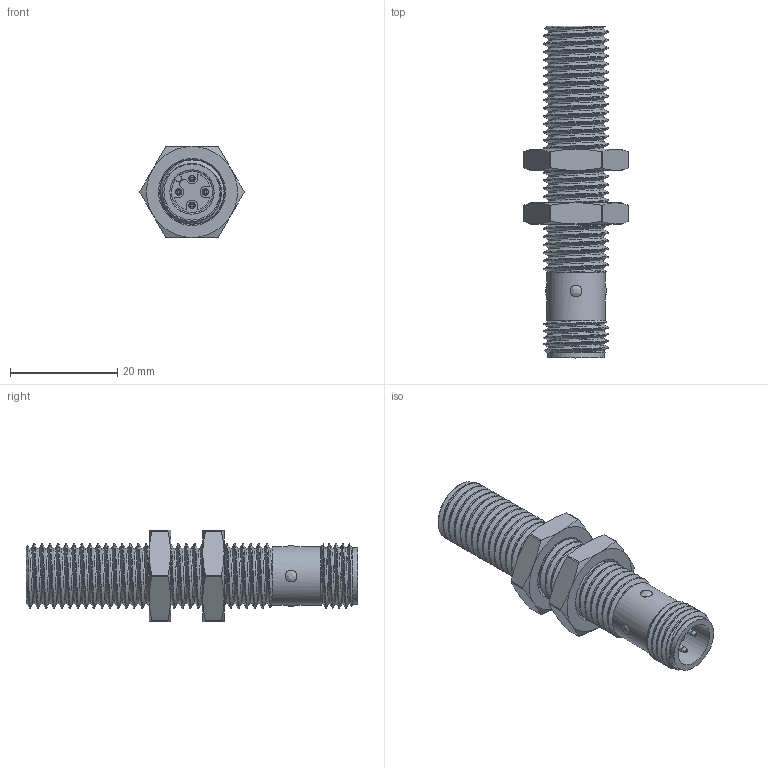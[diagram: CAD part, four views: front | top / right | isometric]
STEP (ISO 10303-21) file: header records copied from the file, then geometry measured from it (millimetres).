
FILE_DESCRIPTION (( 'STEP AP203' ), '1' );
FILE_NAME ('Bi-M12-IOL69X2-H1.step', '2020-10-05T22:02:59', ( '' ), ( '' ), 'SwSTEP 2.0', 'SolidWorks 2019', '' );
FILE_SCHEMA (( 'CONFIG_CONTROL_DESIGN' ));
Length unit declared in the file: millimetre
Products named in the file (1): Bi-M12-IOL69X2-H1
Bounding box: 19.5 x 62 x 17 mm (x, y, z)
Volume: 6626.8 mm3; surface area: 4900.1 mm2
Topology: 1 solids, 6 shells, 154 faces, 380 edges, 240 vertices
Faces by surface type: cylinder 52, cone 45, plane 38, bspline 16, torus 3
Full cylindrical faces by diameter (mm): 1 x12, 1.2 x4, 2.2 x4, 8 x1, 8.3 x1, 9.5 x1, 10.5 x1, 11 x1
Entity records: 13277 total; most frequent: CARTESIAN_POINT 10156, ORIENTED_EDGE 610, DIRECTION 604, EDGE_CURVE 305, AXIS2_PLACEMENT_3D 270, EDGE_LOOP 216, VERTEX_POINT 213, FACE_OUTER_BOUND 184
